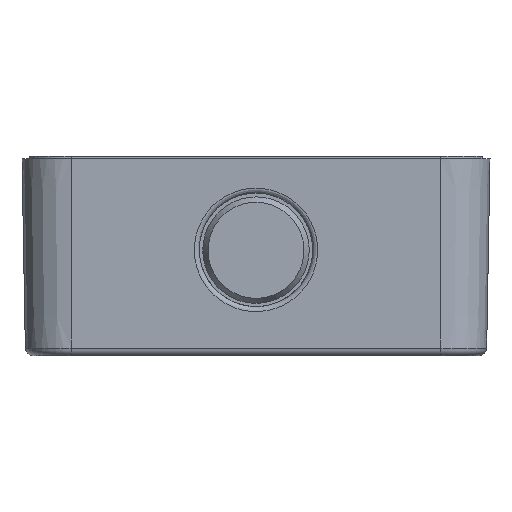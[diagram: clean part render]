
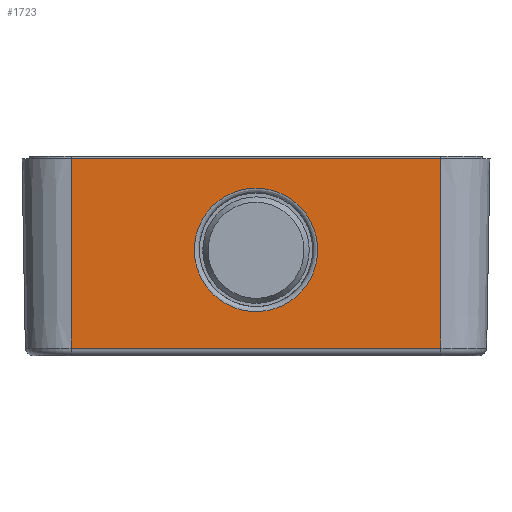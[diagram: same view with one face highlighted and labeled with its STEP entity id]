
A CAD part, left-side view. The second image highlights one B-rep face of the part: STEP entity #1723.
In plain terms, the highlighted planar face has unit normal (-1, 0, -0.018).
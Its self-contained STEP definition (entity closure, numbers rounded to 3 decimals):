
#385=FACE_BOUND('',#2783,.T.);
#386=FACE_BOUND('',#2784,.T.);
#1051=ELLIPSE('',#11363,12.523,12.521);
#1305=PLANE('',#11364);
#1723=ADVANCED_FACE('',(#385,#386),#1305,.F.);
#2783=EDGE_LOOP('',(#6554,#6555,#6556,#6557));
#2784=EDGE_LOOP('',(#6558));
#3195=LINE('',#16215,#4001);
#3198=LINE('',#16231,#4004);
#3429=LINE('',#18295,#4235);
#3630=LINE('',#19396,#4436);
#4001=VECTOR('',#12427,1.);
#4004=VECTOR('',#12440,1.);
#4235=VECTOR('',#13305,1.);
#4436=VECTOR('',#13928,1.);
#6554=ORIENTED_EDGE('',*,*,#8829,.T.);
#6555=ORIENTED_EDGE('',*,*,#9710,.T.);
#6556=ORIENTED_EDGE('',*,*,#8822,.F.);
#6557=ORIENTED_EDGE('',*,*,#9345,.F.);
#6558=ORIENTED_EDGE('',*,*,#9780,.F.);
#7494=VERTEX_POINT('',#16216);
#7495=VERTEX_POINT('',#16217);
#7498=VERTEX_POINT('',#16225);
#7501=VERTEX_POINT('',#16230);
#8177=VERTEX_POINT('',#19792);
#8822=EDGE_CURVE('',#7494,#7495,#3195,.T.);
#8829=EDGE_CURVE('',#7498,#7501,#3198,.T.);
#9345=EDGE_CURVE('',#7498,#7494,#3429,.T.);
#9710=EDGE_CURVE('',#7501,#7495,#3630,.T.);
#9780=EDGE_CURVE('',#8177,#8177,#1051,.T.);
#11363=AXIS2_PLACEMENT_3D('',#19791,#14076,#14077);
#11364=AXIS2_PLACEMENT_3D('',#19847,#14078,#14079);
#12427=DIRECTION('',(0.017,0.,-1.));
#12440=DIRECTION('',(0.017,0.,-1.));
#13305=DIRECTION('',(0.,-1.,0.));
#13928=DIRECTION('',(0.,-1.,0.));
#14076=DIRECTION('',(-1.,0.,-0.017));
#14077=DIRECTION('',(-0.017,0.,1.));
#14078=DIRECTION('',(1.,0.,0.017));
#14079=DIRECTION('',(0.,1.,0.));
#16215=CARTESIAN_POINT('',(-147.497,-37.5,-0.174));
#16216=CARTESIAN_POINT('',(-147.5,-37.5,0.));
#16217=CARTESIAN_POINT('',(-146.829,-37.5,-38.428));
#16225=CARTESIAN_POINT('',(-147.5,37.5,0.));
#16230=CARTESIAN_POINT('',(-146.829,37.5,-38.428));
#16231=CARTESIAN_POINT('',(-147.497,37.5,-0.174));
#18295=CARTESIAN_POINT('',(-147.5,-0.001,0.));
#19396=CARTESIAN_POINT('',(-146.829,9.759,-38.428));
#19791=CARTESIAN_POINT('',(-147.177,0.,-18.514));
#19792=CARTESIAN_POINT('',(-147.395,0.,-5.993));
#19847=CARTESIAN_POINT('',(-147.346,9.759,-8.846));
